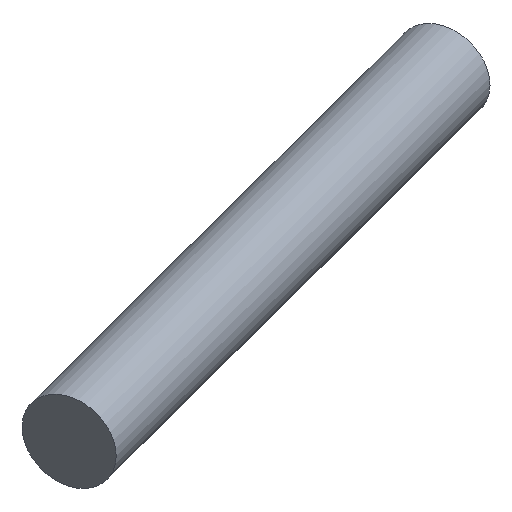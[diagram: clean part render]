
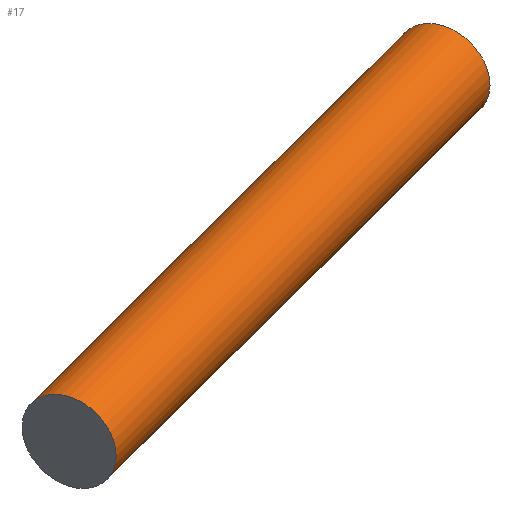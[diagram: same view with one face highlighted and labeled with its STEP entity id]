
A CAD part, isometric view. The second image highlights one B-rep face of the part: STEP entity #17.
In plain terms, the highlighted cylindrical face has radius 0.525 mm (diameter 1.05 mm), a full revolution.
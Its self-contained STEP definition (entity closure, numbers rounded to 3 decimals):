
#17 = ADVANCED_FACE('',(#18),#32,.T.);
#18 = FACE_BOUND('',#19,.T.);
#19 = EDGE_LOOP('',(#20,#49,#76,#77));
#20 = ORIENTED_EDGE('',*,*,#21,.T.);
#21 = EDGE_CURVE('',#22,#24,#26,.T.);
#22 = VERTEX_POINT('',#23);
#23 = CARTESIAN_POINT('',(29.044,25.745,-11.45));
#24 = VERTEX_POINT('',#25);
#25 = CARTESIAN_POINT('',(21.844,23.695,-11.25));
#26 = SEAM_CURVE('',#27,(#31,#42),.PCURVE_S1.);
#27 = LINE('',#28,#29);
#28 = CARTESIAN_POINT('',(29.044,25.745,-11.45));
#29 = VECTOR('',#30,1.);
#30 = DIRECTION('',(-0.961,-0.274,0.027)
  );
#31 = PCURVE('',#32,#37);
#32 = CYLINDRICAL_SURFACE('',#33,0.525);
#33 = AXIS2_PLACEMENT_3D('',#34,#35,#36);
#34 = CARTESIAN_POINT('',(28.9,26.25,-11.45));
#35 = DIRECTION('',(-0.961,-0.274,0.027)
  );
#36 = DIRECTION('',(0.274,-0.962,0.)
  );
#37 = DEFINITIONAL_REPRESENTATION('',(#38),#41);
#38 = B_SPLINE_CURVE_WITH_KNOTS('',1,(#39,#40),.UNSPECIFIED.,.F.,.F.,(2,
    2),(0.,7.489),.PIECEWISE_BEZIER_KNOTS.);
#39 = CARTESIAN_POINT('',(6.283,0.));
#40 = CARTESIAN_POINT('',(6.283,7.489));
#41 = ( GEOMETRIC_REPRESENTATION_CONTEXT(2) 
PARAMETRIC_REPRESENTATION_CONTEXT() REPRESENTATION_CONTEXT('2D SPACE',''
  ) );
#42 = PCURVE('',#32,#43);
#43 = DEFINITIONAL_REPRESENTATION('',(#44),#48);
#44 = LINE('',#45,#46);
#45 = CARTESIAN_POINT('',(0.,0.));
#46 = VECTOR('',#47,1.);
#47 = DIRECTION('',(0.,1.));
#48 = ( GEOMETRIC_REPRESENTATION_CONTEXT(2) 
PARAMETRIC_REPRESENTATION_CONTEXT() REPRESENTATION_CONTEXT('2D SPACE',''
  ) );
#49 = ORIENTED_EDGE('',*,*,#50,.F.);
#50 = EDGE_CURVE('',#24,#24,#51,.T.);
#51 = SURFACE_CURVE('',#52,(#57,#64),.PCURVE_S1.);
#52 = CIRCLE('',#53,0.525);
#53 = AXIS2_PLACEMENT_3D('',#54,#55,#56);
#54 = CARTESIAN_POINT('',(21.7,24.2,-11.25));
#55 = DIRECTION('',(-0.961,-0.274,0.027)
  );
#56 = DIRECTION('',(0.274,-0.962,0.)
  );
#57 = PCURVE('',#32,#58);
#58 = DEFINITIONAL_REPRESENTATION('',(#59),#63);
#59 = LINE('',#60,#61);
#60 = CARTESIAN_POINT('',(0.,7.489));
#61 = VECTOR('',#62,1.);
#62 = DIRECTION('',(1.,0.));
#63 = ( GEOMETRIC_REPRESENTATION_CONTEXT(2) 
PARAMETRIC_REPRESENTATION_CONTEXT() REPRESENTATION_CONTEXT('2D SPACE',''
  ) );
#64 = PCURVE('',#65,#70);
#65 = PLANE('',#66);
#66 = AXIS2_PLACEMENT_3D('',#67,#68,#69);
#67 = CARTESIAN_POINT('',(21.7,24.2,-11.25));
#68 = DIRECTION('',(-0.961,-0.274,0.027)
  );
#69 = DIRECTION('',(0.274,-0.962,0.));
#70 = DEFINITIONAL_REPRESENTATION('',(#71),#75);
#71 = CIRCLE('',#72,0.525);
#72 = AXIS2_PLACEMENT_2D('',#73,#74);
#73 = CARTESIAN_POINT('',(0.,0.));
#74 = DIRECTION('',(1.,0.));
#75 = ( GEOMETRIC_REPRESENTATION_CONTEXT(2) 
PARAMETRIC_REPRESENTATION_CONTEXT() REPRESENTATION_CONTEXT('2D SPACE',''
  ) );
#76 = ORIENTED_EDGE('',*,*,#21,.F.);
#77 = ORIENTED_EDGE('',*,*,#78,.T.);
#78 = EDGE_CURVE('',#22,#22,#79,.T.);
#79 = SURFACE_CURVE('',#80,(#85,#92),.PCURVE_S1.);
#80 = CIRCLE('',#81,0.525);
#81 = AXIS2_PLACEMENT_3D('',#82,#83,#84);
#82 = CARTESIAN_POINT('',(28.9,26.25,-11.45));
#83 = DIRECTION('',(-0.961,-0.274,0.027)
  );
#84 = DIRECTION('',(0.274,-0.962,0.)
  );
#85 = PCURVE('',#32,#86);
#86 = DEFINITIONAL_REPRESENTATION('',(#87),#91);
#87 = LINE('',#88,#89);
#88 = CARTESIAN_POINT('',(0.,0.));
#89 = VECTOR('',#90,1.);
#90 = DIRECTION('',(1.,0.));
#91 = ( GEOMETRIC_REPRESENTATION_CONTEXT(2) 
PARAMETRIC_REPRESENTATION_CONTEXT() REPRESENTATION_CONTEXT('2D SPACE',''
  ) );
#92 = PCURVE('',#93,#98);
#93 = PLANE('',#94);
#94 = AXIS2_PLACEMENT_3D('',#95,#96,#97);
#95 = CARTESIAN_POINT('',(28.9,26.25,-11.45));
#96 = DIRECTION('',(-0.961,-0.274,0.027)
  );
#97 = DIRECTION('',(0.274,-0.962,0.));
#98 = DEFINITIONAL_REPRESENTATION('',(#99),#103);
#99 = CIRCLE('',#100,0.525);
#100 = AXIS2_PLACEMENT_2D('',#101,#102);
#101 = CARTESIAN_POINT('',(0.,0.));
#102 = DIRECTION('',(1.,0.));
#103 = ( GEOMETRIC_REPRESENTATION_CONTEXT(2) 
PARAMETRIC_REPRESENTATION_CONTEXT() REPRESENTATION_CONTEXT('2D SPACE',''
  ) );
